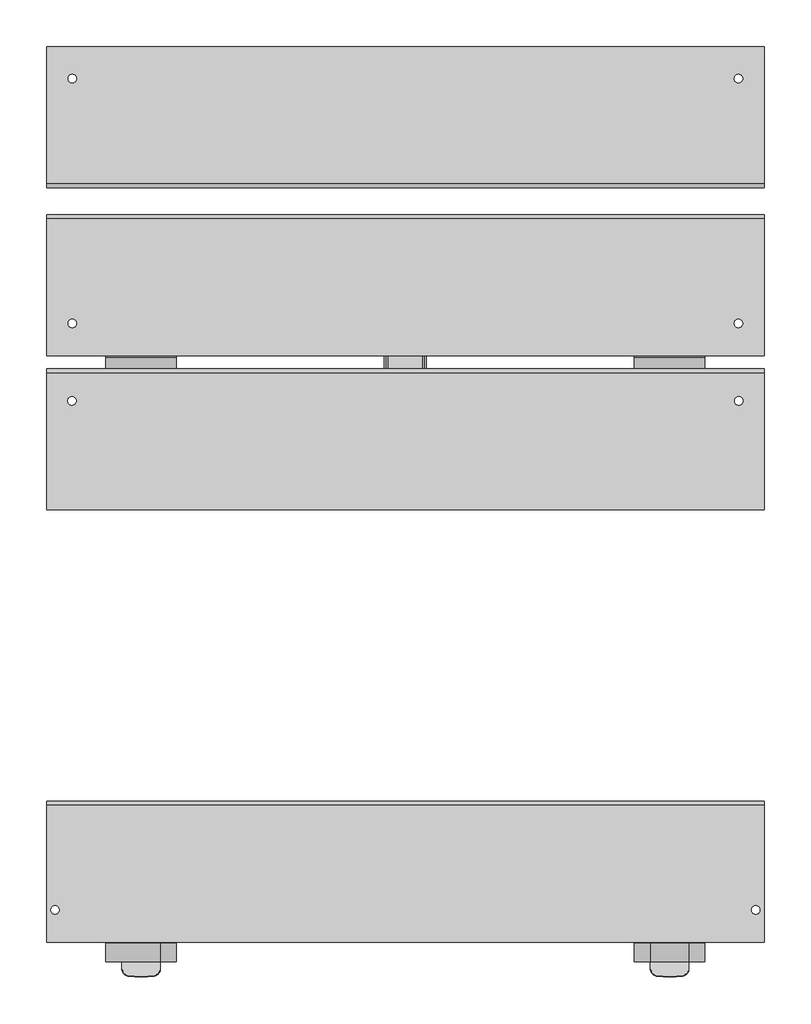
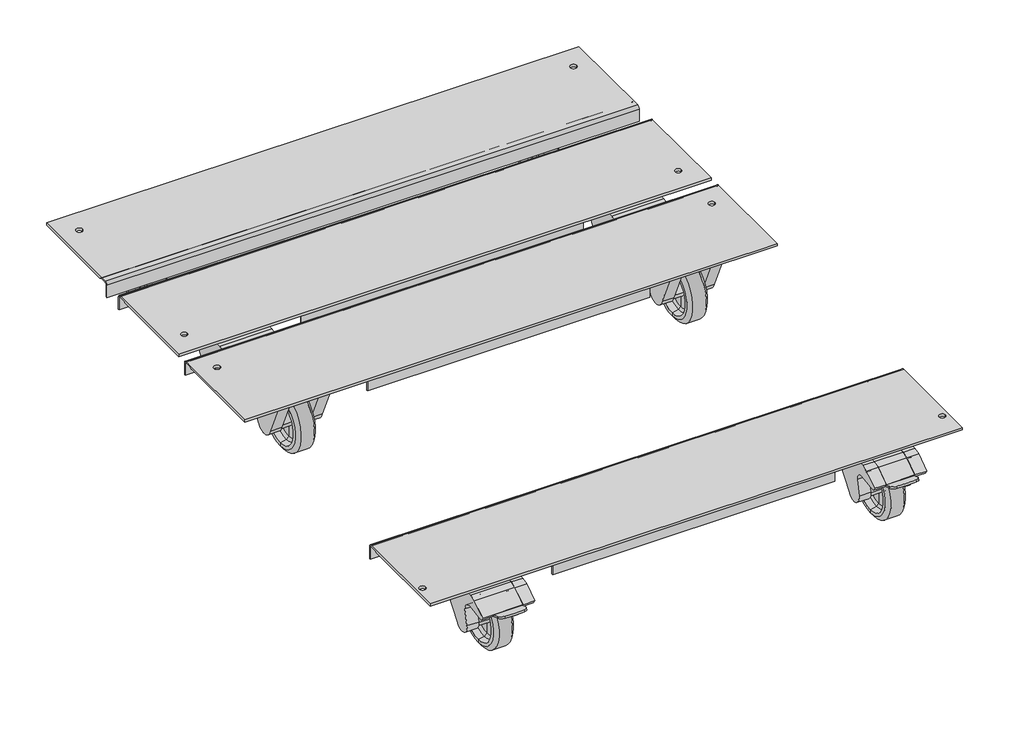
# Not in any storey: 1 proxy.
"""IFC4 building model written with IfcOpenShell, lengths in millimetres."""

from ifc_helpers import new_model, si_unit, origin, place, context, project, spatial, transform, mapped, element, save
from components import specialty_equipment_084e41a8, specialty_equipment_f7a40d9e, specialty_equipment_95572415, specialty_equipment_e0a4a35a

model = new_model("IFC4")

# Units and contexts
model_context = context("Model", 3, world=origin())
ifc_project = project(units=[si_unit("LENGTHUNIT", "METRE", prefix="MILLI")], contexts=[model_context])

# Site, building
site = spatial("IfcSite", under=ifc_project)
building = spatial("IfcBuilding", under=site)

# Proxy
placement = place(None, origin())
specialty_equipment_shape = specialty_equipment_084e41a8(model_context)
specialty_equipment_2_shape = specialty_equipment_f7a40d9e(model_context)
specialty_equipment_3_shape = specialty_equipment_95572415(model_context)
specialty_equipment_4_shape = specialty_equipment_e0a4a35a(model_context)
element("IfcBuildingElementProxy", 1, Name="12290890_D_APDR024 : 59520024_D_12290890_APDR024", ObjectType="12290890_D_APDR024 : 59520024_D_12290890_APDR024", at=placement, inside=building, context=model_context, shape_type="MappedRepresentation", body=[
    mapped(specialty_equipment_shape, transform((0.0, 0.0, 0.0), x_axis=(1.0, 0.0, 0.0), y_axis=(0.0, 1.0, 0.0), z_axis=(0.0, 0.0, 1.0))),
    mapped(specialty_equipment_2_shape, transform((0.0, 0.0, 0.0), x_axis=(1.0, 0.0, 0.0), y_axis=(0.0, 1.0, 0.0), z_axis=(0.0, 0.0, 1.0))),
    mapped(specialty_equipment_3_shape, transform((0.0, 0.0, 0.0), x_axis=(1.0, 0.0, 0.0), y_axis=(0.0, 1.0, 0.0), z_axis=(0.0, 0.0, 1.0))),
    mapped(specialty_equipment_4_shape, transform((0.0, 0.0, 0.0), x_axis=(1.0, 0.0, 0.0), y_axis=(0.0, 1.0, 0.0), z_axis=(0.0, 0.0, 1.0))),
])

save(model, "model.ifc")
